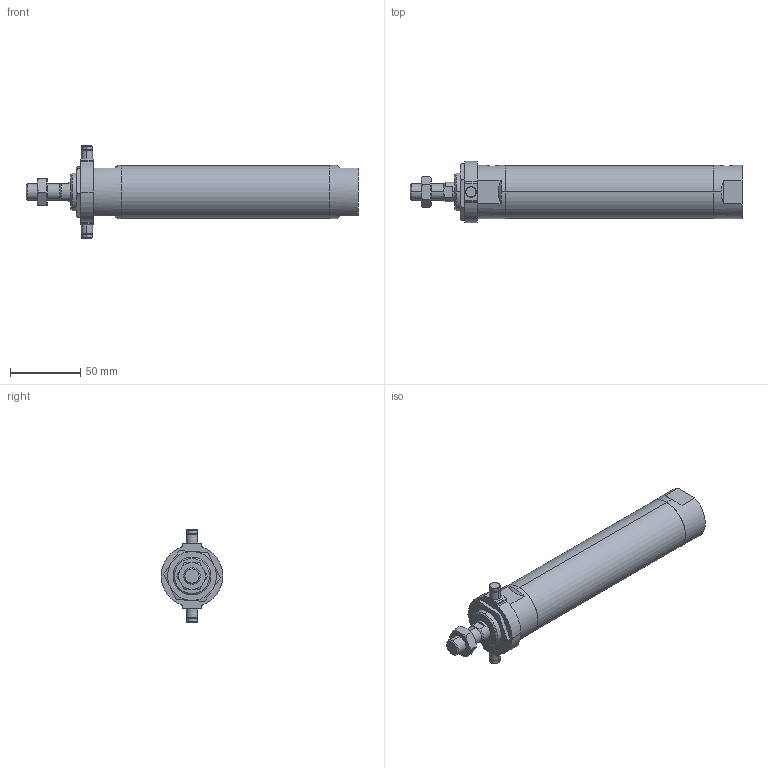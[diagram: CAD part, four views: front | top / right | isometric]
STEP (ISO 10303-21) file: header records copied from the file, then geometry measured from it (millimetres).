
FILE_DESCRIPTION (( 'STEP AP203' ), '1' );
FILE_NAME ('JGND2-32-100-T.STEP', '2016-08-04T02:52:48', ( '' ), ( '' ), 'SwSTEP 2.0', 'SolidWorks 2014', '' );
FILE_SCHEMA (( 'CONFIG_CONTROL_DESIGN' ));
Length unit declared in the file: millimetre
Products named in the file (5): JGND2-32-100-T; J#2-32-100(P); J#2-32-T
Assembly tree (4 placements, depth 2):
  JGND2-32-100-T
    J#2-32-100(P)
    (unnamed)
    (unnamed)
    J#2-32-T
Bounding box: 237 x 44 x 66 mm (x, y, z)
Volume: 232781 mm3; surface area: 35697 mm2
Topology: 4 solids, 4 shells, 128 faces, 293 edges, 177 vertices
Faces by surface type: plane 42, cylinder 41, torus 24, cone 21
Entity records: 4519 total; most frequent: CARTESIAN_POINT 1160, DIRECTION 614, ORIENTED_EDGE 578, EDGE_CURVE 289, AXIS2_PLACEMENT_3D 253, VERTEX_POINT 177, EDGE_LOOP 142, ADVANCED_FACE 128
